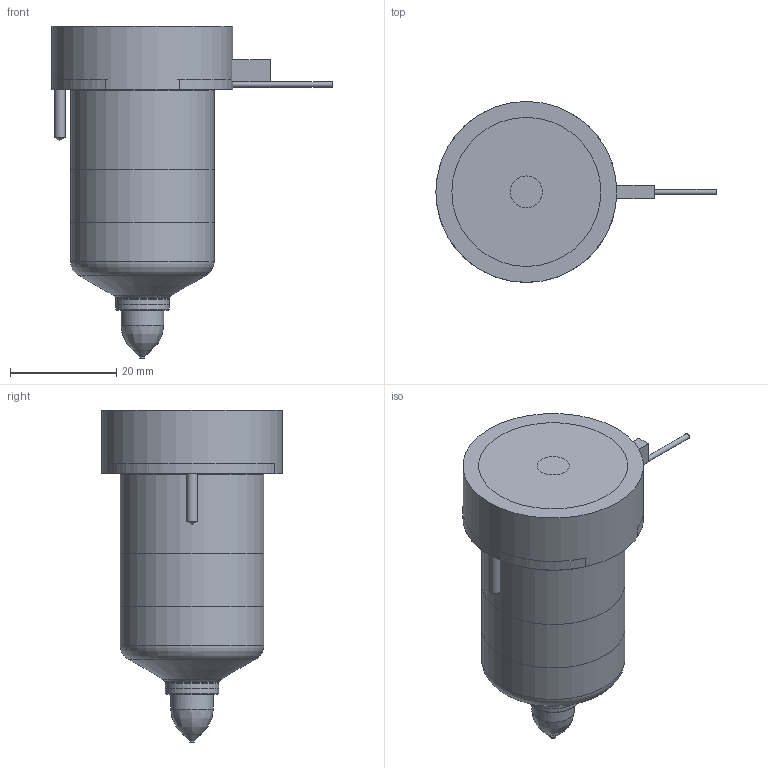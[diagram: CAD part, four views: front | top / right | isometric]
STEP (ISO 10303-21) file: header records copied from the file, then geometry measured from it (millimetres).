
FILE_DESCRIPTION(/* description */ (''),/* implementation_level */ '2;1');
FILE_NAME(/* name */ 'BXTT-BXIT13045-5_250C_b',/* time_stamp */ '2007-01-18T10:00:59+13:00',/* author */ (''),/* organization */ (''),/* preprocessor_version */ 'ST-DEVELOPER v9',/* originating_system */ 'UGS - NX 4.0',/* authorisation */ '');
FILE_SCHEMA (('CONFIG_CONTROL_DESIGN'));
Length unit declared in the file: millimetre
Products named in the file (1): BXTT-BXIT13045-5_250C_b
Bounding box: 52.65 x 34 x 62.37 mm (x, y, z)
Volume: 62001.5 mm3; surface area: 14974.6 mm2
Topology: 6 solids, 6 shells, 81 faces, 156 edges, 98 vertices
Faces by surface type: plane 34, cylinder 25, cone 12, torus 8, bspline 2
Full cylindrical faces by diameter (mm): 0.9 x1, 1 x3, 2 x2, 5.5 x1, 6 x1, 8 x1, 9.61 x1, 10.01 x2, 12.6 x1, 22.2 x1, 27 x2, 34 x1
Entity records: 1989 total; most frequent: CARTESIAN_POINT 408, DIRECTION 334, ORIENTED_EDGE 226, AXIS2_PLACEMENT_3D 149, EDGE_LOOP 128, EDGE_CURVE 113, VERTEX_POINT 92, ADVANCED_FACE 81
